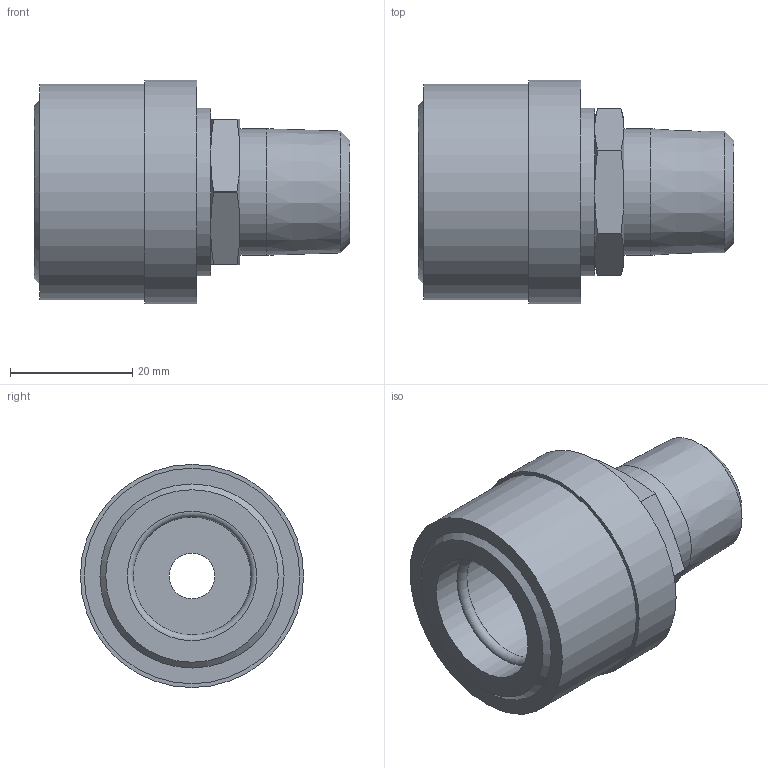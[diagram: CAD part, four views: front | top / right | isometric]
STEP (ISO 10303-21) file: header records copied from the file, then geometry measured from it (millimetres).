
FILE_DESCRIPTION(/* description */ ('STEP AP214'),/* implementation_level */ '2;1');
FILE_NAME(/* name */ 'JS-504-MV',/* time_stamp */ '2024-12-19T08:59:56+01:00',/* author */ ('License CC BY-ND 4.0'),/* organization */ ('CADENAS'),/* preprocessor_version */ 'ST-DEVELOPER v19.3',/* originating_system */ 'PARTsolutions',/* authorisation */ ' ');
FILE_SCHEMA (('AUTOMOTIVE_DESIGN {1 0 10303 214 3 1 1}'));
Length unit declared in the file: inch
Products named in the file (1): JS-504-MV
Bounding box: 51.75 x 36.58 x 36.58 mm (x, y, z)
Volume: 29030.6 mm3; surface area: 8600.9 mm2
Topology: 1 solids, 1 shells, 40 faces, 92 edges, 60 vertices
Faces by surface type: plane 16, cone 15, cylinder 8, torus 1
Full cylindrical faces by diameter (mm): 7.518 x1, 20.716 x1, 21.184 x2, 27.503 x1, 35.306 x1, 36.576 x1
Entity records: 1145 total; most frequent: CARTESIAN_POINT 266, DIRECTION 167, ORIENTED_EDGE 162, EDGE_CURVE 81, AXIS2_PLACEMENT_3D 73, VERTEX_POINT 60, EDGE_LOOP 59, FACE_BOUND 59
